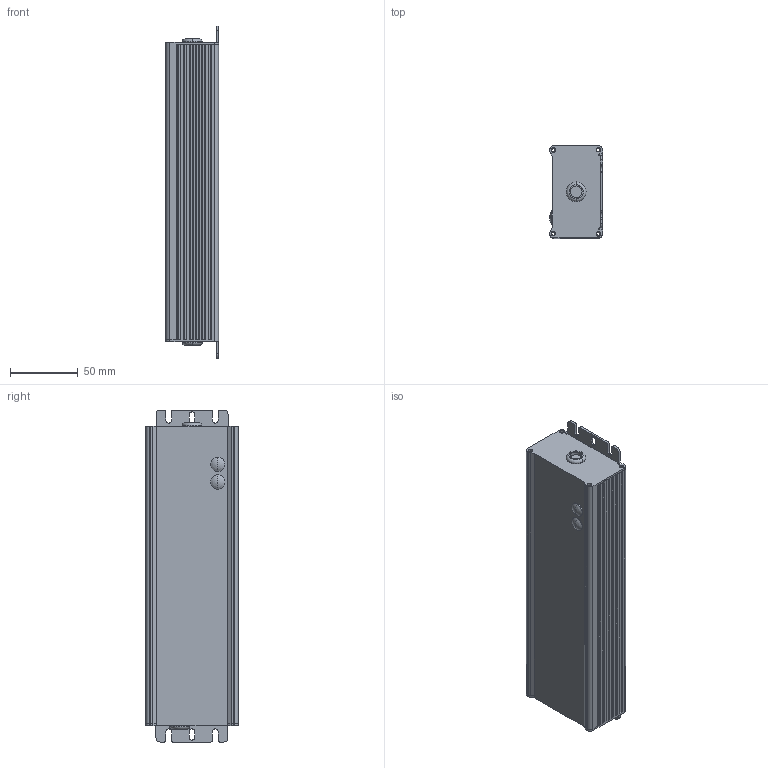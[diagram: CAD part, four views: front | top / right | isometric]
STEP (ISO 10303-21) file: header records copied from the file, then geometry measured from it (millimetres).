
FILE_DESCRIPTION(('Creo Elements/Direct Modeling STEP Export'),'2;1');
FILE_NAME('HEP-240-A.stp','2015-12-16T14:41:06',(''),(''),'PTC Creo Elements/Direct Modeling STEP processor for AP214 (Solid Model)','PTC Creo Elements/Direct Modeling 19.0 09-May-2014 (C) Parametric Technology GmbH','');
FILE_SCHEMA(('AUTOMOTIVE_DESIGN { 1 0 10303 214 1 1 1 1 }'));
Length unit declared in the file: millimetre
Products named in the file (3): RD0801007_1_1.PRT; CASE.PRT.1; HEP-240-A.stp
Assembly tree (3 placements, depth 2):
  HEP-240-A.stp
    RD0801007_1_1.PRT  x2
    CASE.PRT.1
Bounding box: 39.04 x 68.05 x 244.2 mm (x, y, z)
Volume: 102284.5 mm3; surface area: 115514.6 mm2
Topology: 3 solids, 3 shells, 337 faces, 943 edges, 610 vertices
Faces by surface type: plane 196, cylinder 109, cone 20, torus 8, sphere 4
Entity records: 9899 total; most frequent: ORIENTED_EDGE 1770, CARTESIAN_POINT 1743, DIRECTION 1621, EDGE_CURVE 885, VECTOR 615, LINE 615, VERTEX_POINT 575, AXIS2_PLACEMENT_3D 503
